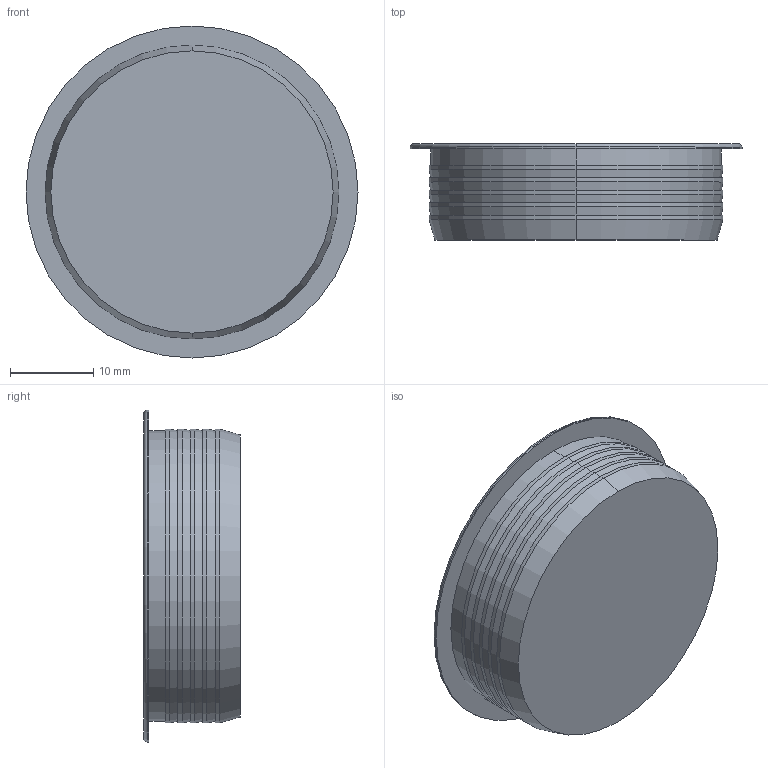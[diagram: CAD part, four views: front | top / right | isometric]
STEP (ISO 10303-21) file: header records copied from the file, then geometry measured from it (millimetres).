
FILE_DESCRIPTION (( 'STEP AP203' ), '1' );
FILE_NAME ('LIN_X_cupcover.STEP', '2013-02-19T04:24:02', ( '' ), ( '' ), 'SwSTEP 2.0', 'SolidWorks 2012', '' );
FILE_SCHEMA (( 'CONFIG_CONTROL_DESIGN' ));
Length unit declared in the file: millimetre
Products named in the file (1): LIN_X_cupcover
Bounding box: 40 x 11.6 x 40 mm (x, y, z)
Volume: 1601.4 mm3; surface area: 4928.7 mm2
Topology: 1 solids, 1 shells, 41 faces, 80 edges, 48 vertices
Faces by surface type: cylinder 16, cone 12, plane 9, torus 4
Entity records: 1135 total; most frequent: DIRECTION 216, CARTESIAN_POINT 170, ORIENTED_EDGE 160, AXIS2_PLACEMENT_3D 94, EDGE_CURVE 80, CIRCLE 52, EDGE_LOOP 48, VERTEX_POINT 48
